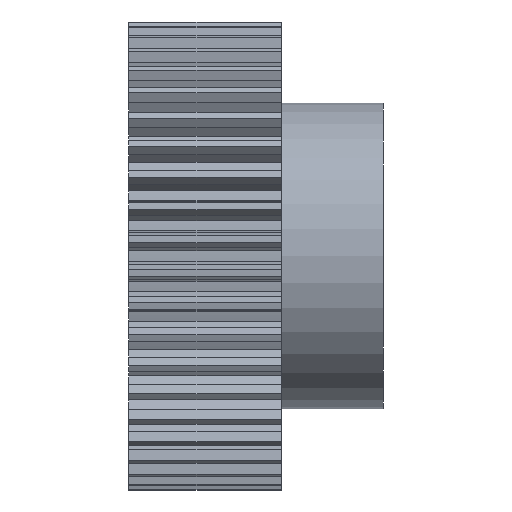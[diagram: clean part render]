
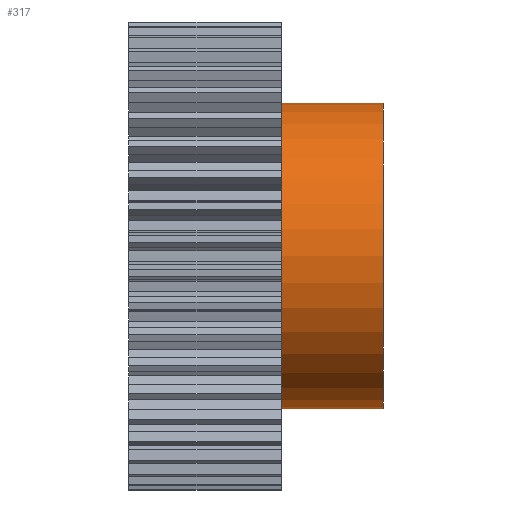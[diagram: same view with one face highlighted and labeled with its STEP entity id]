
A CAD part, front view. The second image highlights one B-rep face of the part: STEP entity #317.
In plain terms, the highlighted cylindrical face has radius 15 mm (diameter 30 mm), a partial arc.
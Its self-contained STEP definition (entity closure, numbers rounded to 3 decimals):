
#306 = ORIENTED_EDGE ( 'NONE', *, *, #8730, .T. ) ;
#313 = ORIENTED_EDGE ( 'NONE', *, *, #8753, .T. ) ;
#317 = ADVANCED_FACE ( 'NONE', ( #2616 ), #2575, .T. ) ;
#319 = ORIENTED_EDGE ( 'NONE', *, *, #9070, .T. ) ;
#347 = EDGE_LOOP ( 'NONE', ( #349, #313, #319, #306 ) ) ;
#349 = ORIENTED_EDGE ( 'NONE', *, *, #8763, .F. ) ;
#819 = DIRECTION ( 'NONE',  ( 0., 0., 1. ) ) ;
#820 = DIRECTION ( 'NONE',  ( 1., 0., 0. ) ) ;
#821 = CARTESIAN_POINT ( 'NONE',  ( 7.5, 0., 0. ) ) ;
#822 = AXIS2_PLACEMENT_3D ( 'NONE', #821, #820, #819 ) ;
#825 = CIRCLE ( 'NONE', #822, 15. ) ;
#835 = DIRECTION ( 'NONE',  ( -1., 0., 0. ) ) ;
#839 = AXIS2_PLACEMENT_3D ( 'NONE', #841, #835, #905 ) ;
#841 = CARTESIAN_POINT ( 'NONE',  ( 17.5, 0., 0. ) ) ;
#846 = CIRCLE ( 'NONE', #839, 15. ) ;
#848 = CARTESIAN_POINT ( 'NONE',  ( 17.5, 0., -15. ) ) ;
#882 = CARTESIAN_POINT ( 'NONE',  ( 17.5, 0., 15. ) ) ;
#889 = DIRECTION ( 'NONE',  ( -1., 0., 0. ) ) ;
#890 = VECTOR ( 'NONE', #889, 1000. ) ;
#891 = CARTESIAN_POINT ( 'NONE',  ( 7.5, 0., -15. ) ) ;
#897 = LINE ( 'NONE', #891, #890 ) ;
#905 = DIRECTION ( 'NONE',  ( 0., 0., 1. ) ) ;
#1337 = VECTOR ( 'NONE', #1397, 1000. ) ;
#1338 = CARTESIAN_POINT ( 'NONE',  ( 7.5, 0., 15. ) ) ;
#1355 = CARTESIAN_POINT ( 'NONE',  ( 7.5, 0., 15. ) ) ;
#1362 = LINE ( 'NONE', #1338, #1337 ) ;
#1393 = CARTESIAN_POINT ( 'NONE',  ( 7.5, 0., -15. ) ) ;
#1397 = DIRECTION ( 'NONE',  ( -1., 0., 0. ) ) ;
#2527 = DIRECTION ( 'NONE',  ( 0., 0., 1. ) ) ;
#2557 = DIRECTION ( 'NONE',  ( -1., 0., 0. ) ) ;
#2558 = CARTESIAN_POINT ( 'NONE',  ( 7.5, 0., 0. ) ) ;
#2564 = AXIS2_PLACEMENT_3D ( 'NONE', #2558, #2557, #2527 ) ;
#2575 = CYLINDRICAL_SURFACE ( 'NONE', #2564, 15. ) ;
#2616 = FACE_OUTER_BOUND ( 'NONE', #347, .T. ) ;
#8730 = EDGE_CURVE ( 'NONE', #9081, #9080, #825, .T. ) ;
#8753 = EDGE_CURVE ( 'NONE', #8757, #8778, #846, .T. ) ;
#8757 = VERTEX_POINT ( 'NONE', #848 ) ;
#8763 = EDGE_CURVE ( 'NONE', #8757, #9080, #897, .T. ) ;
#8778 = VERTEX_POINT ( 'NONE', #882 ) ;
#9070 = EDGE_CURVE ( 'NONE', #8778, #9081, #1362, .T. ) ;
#9080 = VERTEX_POINT ( 'NONE', #1393 ) ;
#9081 = VERTEX_POINT ( 'NONE', #1355 ) ;
